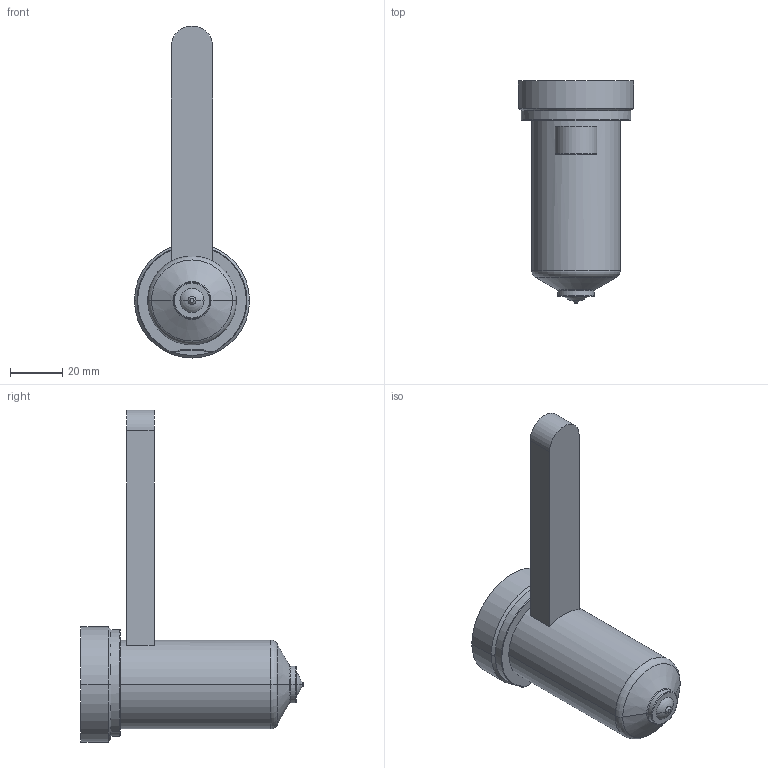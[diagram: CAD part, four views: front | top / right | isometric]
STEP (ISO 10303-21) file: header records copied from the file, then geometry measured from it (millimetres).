
FILE_DESCRIPTION((''),'2;1');
FILE_NAME('EO10_PG-BL_WR_070_COT','2024-02-19T11:09:49',('sundharh'),(''),'CREO PARAMETRIC BY PTC INC, 2023154','CREO PARAMETRIC BY PTC INC, 2023154','');
FILE_SCHEMA(('CONFIG_CONTROL_DESIGN'));
Length unit declared in the file: millimetre
Products named in the file (1): EO10_PG-BL_WR_070_COT
Bounding box: 44 x 85 x 127 mm (x, y, z)
Volume: 93743.2 mm3; surface area: 16112.7 mm2
Topology: 1 solids, 1 shells, 40 faces, 85 edges, 50 vertices
Faces by surface type: cylinder 13, plane 10, torus 9, cone 6, sphere 2
Entity records: 1193 total; most frequent: CARTESIAN_POINT 263, DIRECTION 209, ORIENTED_EDGE 170, AXIS2_PLACEMENT_3D 90, EDGE_CURVE 85, VERTEX_POINT 50, CIRCLE 50, EDGE_LOOP 43
